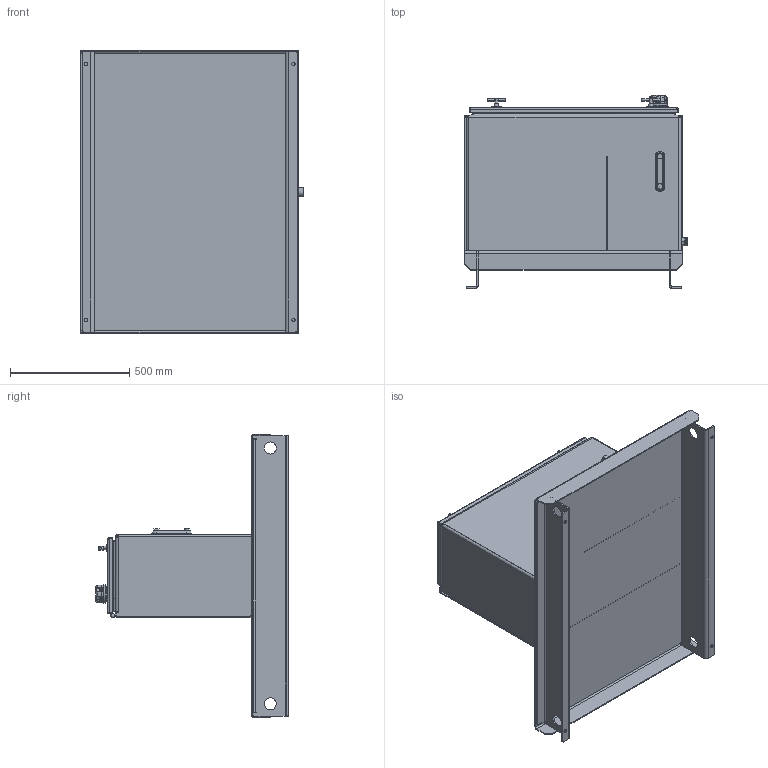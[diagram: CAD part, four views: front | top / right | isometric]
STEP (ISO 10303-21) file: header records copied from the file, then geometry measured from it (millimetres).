
FILE_DESCRIPTION (( 'STEP AP203' ), '1' );
FILE_NAME ('RTP030-HT.STEP', '2015-01-07T19:18:23', ( '' ), ( '' ), 'SwSTEP 2.0', 'SolidWorks 2014', '' );
FILE_SCHEMA (( 'CONFIG_CONTROL_DESIGN' ));
Products named in the file (1): RTP030-HT
Bounding box: 933.45 x 808.99 x 1184.28 mm (x, y, z)
Volume: 17742087.5 mm3; surface area: 7866752.1 mm2
Topology: 40 solids, 218 shells, 2851 faces, 6298 edges, 3861 vertices
Faces by surface type: plane 1248, cylinder 1018, torus 299, bspline 144, cone 92, sphere 50
Entity records: 87155 total; most frequent: CARTESIAN_POINT 23962, DIRECTION 13798, ORIENTED_EDGE 12500, EDGE_CURVE 6250, AXIS2_PLACEMENT_3D 5309, VERTEX_POINT 3849, LINE 3180, VECTOR 3180
